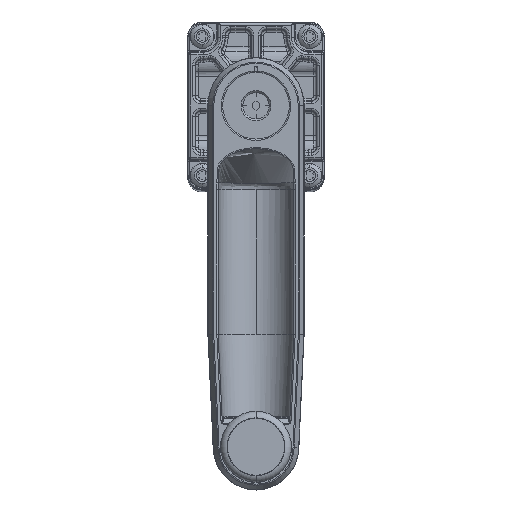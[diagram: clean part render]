
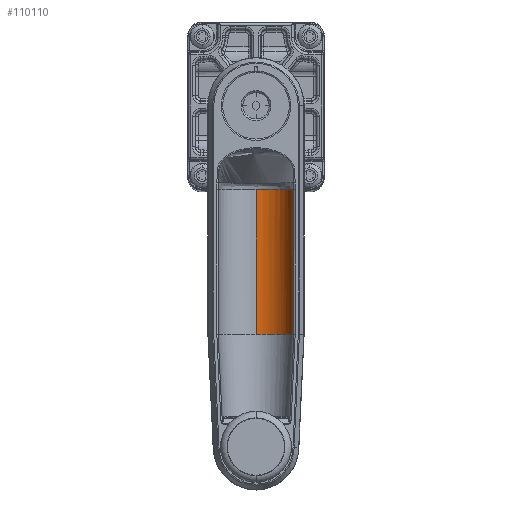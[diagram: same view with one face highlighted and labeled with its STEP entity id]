
A CAD part, top view. The second image highlights one B-rep face of the part: STEP entity #110110.
In plain terms, the highlighted cylindrical face has radius 14.25 mm (diameter 28.5 mm), a partial arc.
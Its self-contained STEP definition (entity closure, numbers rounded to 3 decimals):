
#16 = CARTESIAN_POINT ( 'NONE',  ( -4.657, -6.882, -40.695 ) ) ;
#3852 = VERTEX_POINT ( 'NONE', #25551 ) ;
#6947 = EDGE_CURVE ( 'NONE', #73098, #105031, #32111, .T. ) ;
#7622 = VERTEX_POINT ( 'NONE', #56631 ) ;
#8088 = CARTESIAN_POINT ( 'NONE',  ( 8.092, -6.882, -30.526 ) ) ;
#8784 = CARTESIAN_POINT ( 'NONE',  ( -0.088, -6.882, -39.644 ) ) ;
#10011 = CARTESIAN_POINT ( 'NONE',  ( 7.639, -6.882, -31.879 ) ) ;
#11066 = B_SPLINE_CURVE_WITH_KNOTS ( 'NONE', 3,
 ( #45209, #54442, #8784, #72846, #17980 ),
 .UNSPECIFIED., .F., .F.,
 ( 4, 1, 4 ),
 ( 0.345, 0.375, 0.405 ),
 .UNSPECIFIED. ) ;
#14425 = EDGE_CURVE ( 'NONE', #110622, #68756, #81021, .T. ) ;
#15321 = DIRECTION ( 'NONE',  ( 0., 1., 0. ) ) ;
#17817 = LINE ( 'NONE', #47946, #85062 ) ;
#17980 = CARTESIAN_POINT ( 'NONE',  ( -1.351, -6.882, -40.079 ) ) ;
#18105 = EDGE_CURVE ( 'NONE', #75672, #105031, #63395, .T. ) ;
#18221 = CARTESIAN_POINT ( 'NONE',  ( -5.569, 48.118, -26.467 ) ) ;
#22215 = EDGE_CURVE ( 'NONE', #83953, #75672, #98354, .T. ) ;
#23946 = CARTESIAN_POINT ( 'NONE',  ( 8.691, -6.882, -26.467 ) ) ;
#25551 = CARTESIAN_POINT ( 'NONE',  ( -1.351, -6.882, -40.079 ) ) ;
#25690 = CARTESIAN_POINT ( 'NONE',  ( 2.369, -6.882, -38.385 ) ) ;
#32111 = B_SPLINE_CURVE_WITH_KNOTS ( 'NONE', 3,
 ( #110004, #16, #100779, #55232 ),
 .UNSPECIFIED., .F., .F.,
 ( 4, 4 ),
 ( 0.47, 0.5 ),
 .UNSPECIFIED. ) ;
#33188 = CARTESIAN_POINT ( 'NONE',  ( 8.534, -6.882, -28.826 ) ) ;
#33999 = CARTESIAN_POINT ( 'NONE',  ( -4.203, -6.882, -40.652 ) ) ;
#34248 = AXIS2_PLACEMENT_3D ( 'NONE', #70174, #15321, #79297 ) ;
#34504 = CARTESIAN_POINT ( 'NONE',  ( 6.367, -6.882, -34.377 ) ) ;
#35404 = CARTESIAN_POINT ( 'NONE',  ( 8.145, -6.882, -30.342 ) ) ;
#37744 = CARTESIAN_POINT ( 'NONE',  ( -5.569, 48.118, -40.717 ) ) ;
#37985 = B_SPLINE_CURVE_WITH_KNOTS ( 'NONE', 3,
 ( #62154, #34504, #80483, #25690, #91300 ),
 .UNSPECIFIED., .F., .F.,
 ( 4, 1, 4 ),
 ( 0.155, 0.25, 0.345 ),
 .UNSPECIFIED. ) ;
#38539 = EDGE_CURVE ( 'NONE', #63200, #110622, #105865, .T. ) ;
#40839 = EDGE_CURVE ( 'NONE', #83953, #54925, #17817, .T. ) ;
#42609 = CYLINDRICAL_SURFACE ( 'NONE', #66148, 14.25 ) ;
#45209 = CARTESIAN_POINT ( 'NONE',  ( 1.114, -6.882, -39.053 ) ) ;
#45860 = DIRECTION ( 'NONE',  ( 0., -1., 0. ) ) ;
#47593 = B_SPLINE_CURVE_WITH_KNOTS ( 'NONE', 3,
 ( #70439, #60481, #88762, #33999 ),
 .UNSPECIFIED., .F., .F.,
 ( 4, 4 ),
 ( 0.405, 0.47 ),
 .UNSPECIFIED. ) ;
#47946 = CARTESIAN_POINT ( 'NONE',  ( 8.681, 48.118, -26.467 ) ) ;
#49779 = B_SPLINE_CURVE_WITH_KNOTS ( 'NONE', 3,
 ( #51191, #60447, #23946, #87936, #33188, #97143 ),
 .UNSPECIFIED., .F., .F.,
 ( 4, 2, 4 ),
 ( 0., 0., 0.079 ),
 .UNSPECIFIED. ) ;
#51191 = CARTESIAN_POINT ( 'NONE',  ( 8.691, -6.882, -26.467 ) ) ;
#51675 = ORIENTED_EDGE ( 'NONE', *, *, #52845, .F. ) ;
#52845 = EDGE_CURVE ( 'NONE', #3852, #73098, #47593, .T. ) ;
#54200 = ORIENTED_EDGE ( 'NONE', *, *, #14425, .F. ) ;
#54442 = CARTESIAN_POINT ( 'NONE',  ( 0.718, -6.882, -39.263 ) ) ;
#54925 = VERTEX_POINT ( 'NONE', #110577 ) ;
#55232 = CARTESIAN_POINT ( 'NONE',  ( -5.569, -6.882, -40.717 ) ) ;
#56490 = CARTESIAN_POINT ( 'NONE',  ( 7.027, -6.882, -33.132 ) ) ;
#56631 = CARTESIAN_POINT ( 'NONE',  ( 1.114, -6.882, -39.053 ) ) ;
#57208 = DIRECTION ( 'NONE',  ( 0., -1., 0. ) ) ;
#59800 = EDGE_CURVE ( 'NONE', #68756, #7622, #37985, .T. ) ;
#60447 = CARTESIAN_POINT ( 'NONE',  ( 8.691, -6.882, -26.467 ) ) ;
#60481 = CARTESIAN_POINT ( 'NONE',  ( -2.279, -6.882, -40.365 ) ) ;
#60537 = VECTOR ( 'NONE', #84378, 1000. ) ;
#62154 = CARTESIAN_POINT ( 'NONE',  ( 7.027, -6.882, -33.132 ) ) ;
#63200 = VERTEX_POINT ( 'NONE', #87990 ) ;
#63395 = LINE ( 'NONE', #75210, #60537 ) ;
#65275 = CARTESIAN_POINT ( 'NONE',  ( 7.953, -6.882, -30.992 ) ) ;
#65947 = ORIENTED_EDGE ( 'NONE', *, *, #6947, .F. ) ;
#66148 = AXIS2_PLACEMENT_3D ( 'NONE', #18221, #45860, #100633 ) ;
#67322 = ORIENTED_EDGE ( 'NONE', *, *, #22215, .T. ) ;
#68445 = EDGE_CURVE ( 'NONE', #54925, #63200, #49779, .T. ) ;
#68756 = VERTEX_POINT ( 'NONE', #74687 ) ;
#70174 = CARTESIAN_POINT ( 'NONE',  ( -5.569, 48.118, -26.467 ) ) ;
#70181 = ORIENTED_EDGE ( 'NONE', *, *, #18105, .T. ) ;
#70439 = CARTESIAN_POINT ( 'NONE',  ( -1.351, -6.882, -40.079 ) ) ;
#71816 = CARTESIAN_POINT ( 'NONE',  ( 8.196, -6.882, -30.157 ) ) ;
#72846 = CARTESIAN_POINT ( 'NONE',  ( -0.928, -6.882, -39.947 ) ) ;
#73098 = VERTEX_POINT ( 'NONE', #83562 ) ;
#74618 = ORIENTED_EDGE ( 'NONE', *, *, #103243, .F. ) ;
#74687 = CARTESIAN_POINT ( 'NONE',  ( 7.027, -6.882, -33.132 ) ) ;
#75210 = CARTESIAN_POINT ( 'NONE',  ( -5.569, 48.118, -40.717 ) ) ;
#75672 = VERTEX_POINT ( 'NONE', #37744 ) ;
#77506 = CARTESIAN_POINT ( 'NONE',  ( 8.681, 48.118, -26.467 ) ) ;
#79297 = DIRECTION ( 'NONE',  ( 0., 0., 1. ) ) ;
#80483 = CARTESIAN_POINT ( 'NONE',  ( 4.672, -6.882, -36.681 ) ) ;
#81021 = B_SPLINE_CURVE_WITH_KNOTS ( 'NONE', 3,
 ( #102011, #65275, #10011, #111255, #56490 ),
 .UNSPECIFIED., .F., .F.,
 ( 4, 1, 4 ),
 ( 0.092, 0.125, 0.155 ),
 .UNSPECIFIED. ) ;
#83340 = CARTESIAN_POINT ( 'NONE',  ( -5.569, -6.882, -40.717 ) ) ;
#83562 = CARTESIAN_POINT ( 'NONE',  ( -4.203, -6.882, -40.652 ) ) ;
#83953 = VERTEX_POINT ( 'NONE', #77506 ) ;
#84378 = DIRECTION ( 'NONE',  ( 0., -1., 0. ) ) ;
#85062 = VECTOR ( 'NONE', #57208, 1000. ) ;
#87936 = CARTESIAN_POINT ( 'NONE',  ( 8.685, -6.882, -27.645 ) ) ;
#87990 = CARTESIAN_POINT ( 'NONE',  ( 8.245, -6.882, -29.972 ) ) ;
#88575 = ORIENTED_EDGE ( 'NONE', *, *, #68445, .F. ) ;
#88762 = CARTESIAN_POINT ( 'NONE',  ( -3.237, -6.882, -40.557 ) ) ;
#91232 = FACE_OUTER_BOUND ( 'NONE', #102261, .T. ) ;
#91300 = CARTESIAN_POINT ( 'NONE',  ( 1.114, -6.882, -39.053 ) ) ;
#91448 = ORIENTED_EDGE ( 'NONE', *, *, #40839, .F. ) ;
#91803 = ORIENTED_EDGE ( 'NONE', *, *, #59800, .F. ) ;
#95700 = ORIENTED_EDGE ( 'NONE', *, *, #38539, .F. ) ;
#97143 = CARTESIAN_POINT ( 'NONE',  ( 8.245, -6.882, -29.972 ) ) ;
#98354 = CIRCLE ( 'NONE', #34248, 14.25 ) ;
#98586 = CARTESIAN_POINT ( 'NONE',  ( 8.245, -6.882, -29.972 ) ) ;
#99351 = CARTESIAN_POINT ( 'NONE',  ( 8.092, -6.882, -30.526 ) ) ;
#100633 = DIRECTION ( 'NONE',  ( 0., 0., -1. ) ) ;
#100779 = CARTESIAN_POINT ( 'NONE',  ( -5.113, -6.882, -40.717 ) ) ;
#102011 = CARTESIAN_POINT ( 'NONE',  ( 8.092, -6.882, -30.526 ) ) ;
#102261 = EDGE_LOOP ( 'NONE', ( #67322, #70181, #65947, #51675, #74618, #91803, #54200, #95700, #88575, #91448 ) ) ;
#103243 = EDGE_CURVE ( 'NONE', #7622, #3852, #11066, .T. ) ;
#105031 = VERTEX_POINT ( 'NONE', #83340 ) ;
#105865 = B_SPLINE_CURVE_WITH_KNOTS ( 'NONE', 3,
 ( #98586, #71816, #35404, #99351 ),
 .UNSPECIFIED., .F., .F.,
 ( 4, 4 ),
 ( 0.079, 0.092 ),
 .UNSPECIFIED. ) ;
#110004 = CARTESIAN_POINT ( 'NONE',  ( -4.203, -6.882, -40.652 ) ) ;
#110110 = ADVANCED_FACE ( 'NONE', ( #91232 ), #42609, .F. ) ;
#110577 = CARTESIAN_POINT ( 'NONE',  ( 8.691, -6.882, -26.467 ) ) ;
#110622 = VERTEX_POINT ( 'NONE', #8088 ) ;
#111255 = CARTESIAN_POINT ( 'NONE',  ( 7.239, -6.882, -32.731 ) ) ;
